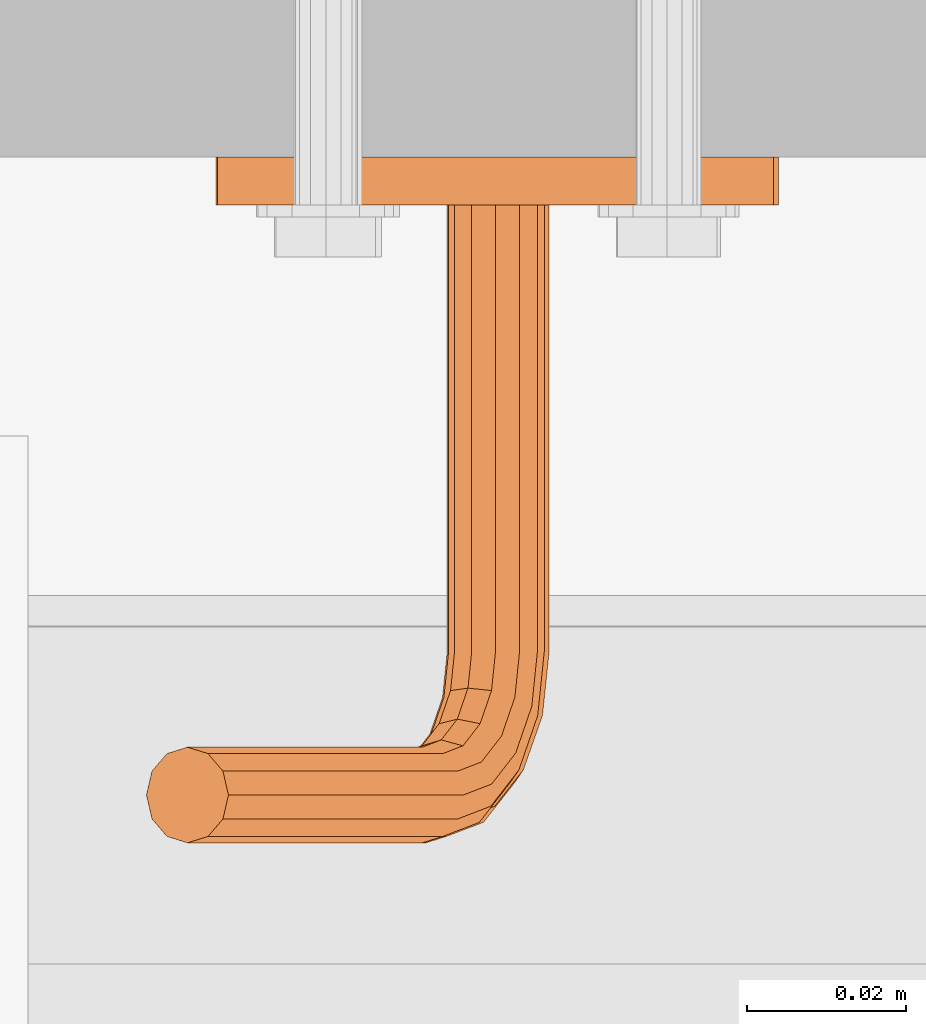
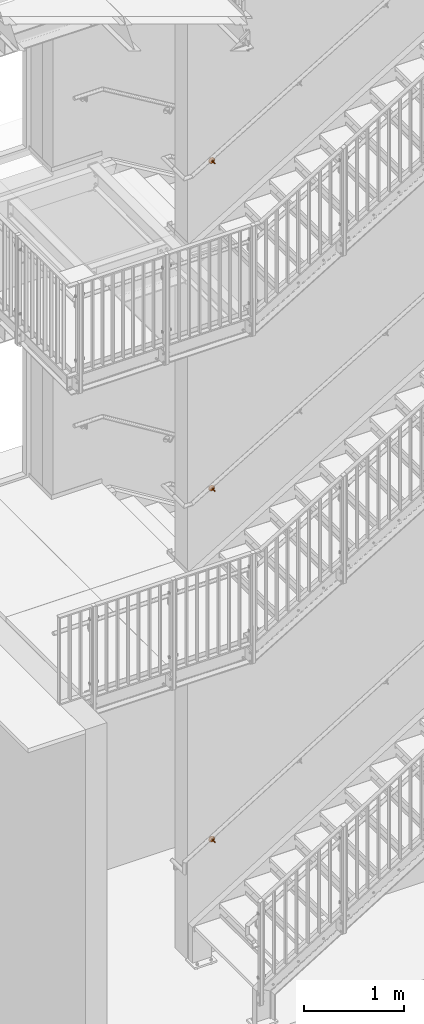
# One storey, part 374 of 410: 3 proxies.
"""IFC2X3 building model written with IfcOpenShell, lengths in millimetres."""

from ifc_helpers import new_model, entity, si_unit, converted_unit, origin_with_axes, place, context, project, spatial, faceted_brep, element, save


model = new_model("IFC2X3")

# Units and contexts
model_context = context("Model", 3, precision=1e-09, world=origin_with_axes())
ifc_project = project(units=[si_unit("LENGTHUNIT", "METRE", prefix="MILLI"), si_unit("AREAUNIT", "SQUARE_METRE"), si_unit("VOLUMEUNIT", "CUBIC_METRE"), converted_unit("PLANEANGLEUNIT", "DEGREE", entity("IfcPlaneAngleMeasure", 0.01745329), si_unit("PLANEANGLEUNIT", "RADIAN"), dimensions=[0, 0, 0, 0, 0, 0, 0])], contexts=[model_context])

# Site, building, storey
site_placement = place(None, origin_with_axes())
site = spatial("IfcSite", under=ifc_project, at=site_placement, Name="mKR Teilneubau & Sanierung BA1 - Ostfildern", CompositionType="ELEMENT")
building_placement = place(site_placement, origin_with_axes())
building = spatial("IfcBuilding", under=site, at=building_placement, Name="Struktur 1", CompositionType="ELEMENT")
storey_placement = place(building_placement, origin_with_axes())
storey = spatial("IfcBuildingStorey", under=building, at=storey_placement, Name="Default Storey", CompositionType="ELEMENT", Elevation=0.0)

# Proxies
proxy_1_placement = place(None, origin_with_axes())
element("IfcBuildingElementProxy", 1, at=proxy_1_placement, inside=storey, ObjectType="-", context=model_context, shape_type="Brep", body=[
    faceted_brep([(-1451.167253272, 16855.0, -3420.123119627), (-1451.167253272, 16849.0, -3420.123119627), (-1450.536690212, 16849.0, -3422.230777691), (-1450.536690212, 16855.0, -3422.230777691), (-1424.721301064, 16849.0, -3371.891880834), (-1436.131583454, 16849.0, -3373.489758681), (-1446.404795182, 16849.0, -3378.705971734), (-1454.427674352, 16849.0, -3386.975262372), (-1459.330817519, 16849.0, -3397.401524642), (-1460.58289304, 16849.0, -3408.854911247), (-1458.048219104, 16849.0, -3420.094270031), (-1452.001466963, 16849.0, -3429.901642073), (-1443.097896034, 16849.0, -3437.214246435), (-1432.302346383, 16849.0, -3441.239648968), (-1420.784683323, 16849.0, -3441.541634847), (-1409.793024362, 16849.0, -3438.087479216), (-1400.518486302, 16849.0, -3431.251493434), (-1393.966109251, 16849.0, -3421.774462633), (-1390.845944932, 16849.0, -3410.68337015), (-1391.496111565, 16849.0, -3399.180107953), (-1395.846153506, 16849.0, -3388.511232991), (-1403.424676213, 16849.0, -3379.832883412), (-1413.410429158, 16849.0, -3374.085493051), (-1408.606524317, 16849.0, -3393.88222881), (-1408.098778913, 16849.0, -3391.741661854), (-1406.588775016, 16849.0, -3390.141749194), (-1404.481116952, 16849.0, -3389.511186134), (-1402.340549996, 16849.0, -3390.018931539), (-1400.740637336, 16849.0, -3391.528935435), (-1400.110074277, 16849.0, -3393.6365935), (-1400.617819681, 16849.0, -3395.777160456), (-1402.127823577, 16849.0, -3397.377073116), (-1404.235481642, 16849.0, -3398.007636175), (-1406.376048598, 16849.0, -3397.499890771), (-1407.975961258, 16849.0, -3395.989886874), (-1450.659507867, 16849.0, -3417.982552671), (-1449.149503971, 16849.0, -3416.382640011), (-1447.041845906, 16849.0, -3415.752076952), (-1444.90127895, 16849.0, -3416.259822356), (-1443.30136629, 16849.0, -3417.769826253), (-1442.670803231, 16849.0, -3419.877484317), (-1443.178548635, 16849.0, -3422.018051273), (-1444.688552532, 16849.0, -3423.617963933), (-1446.796210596, 16849.0, -3424.248526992), (-1448.936777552, 16849.0, -3423.740781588), (-1450.659507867, 16855.0, -3417.982552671), (-1393.966109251, 16855.0, -3421.774462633), (-1400.518486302, 16855.0, -3431.251493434), (-1409.793024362, 16855.0, -3438.087479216), (-1420.784683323, 16855.0, -3441.541634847), (-1432.302346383, 16855.0, -3441.239648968), (-1443.097896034, 16855.0, -3437.214246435), (-1452.001466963, 16855.0, -3429.901642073), (-1458.048219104, 16855.0, -3420.094270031), (-1460.58289304, 16855.0, -3408.854911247), (-1459.330817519, 16855.0, -3397.401524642), (-1454.427674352, 16855.0, -3386.975262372), (-1446.404795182, 16855.0, -3378.705971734), (-1436.131583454, 16855.0, -3373.489758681), (-1424.721301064, 16855.0, -3371.891880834), (-1413.410429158, 16855.0, -3374.085493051), (-1403.424676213, 16855.0, -3379.832883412), (-1395.846153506, 16855.0, -3388.511232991), (-1391.496111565, 16855.0, -3399.180107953), (-1390.845944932, 16855.0, -3410.68337015), (-1448.936777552, 16855.0, -3423.740781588), (-1446.796210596, 16855.0, -3424.248526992), (-1444.688552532, 16855.0, -3423.617963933), (-1443.178548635, 16855.0, -3422.018051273), (-1442.670803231, 16855.0, -3419.877484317), (-1443.30136629, 16855.0, -3417.769826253), (-1444.90127895, 16855.0, -3416.259822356), (-1447.041845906, 16855.0, -3415.752076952), (-1449.149503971, 16855.0, -3416.382640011), (-1406.376048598, 16855.0, -3397.499890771), (-1404.235481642, 16855.0, -3398.007636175), (-1402.127823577, 16855.0, -3397.377073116), (-1400.617819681, 16855.0, -3395.777160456), (-1400.110074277, 16855.0, -3393.6365935), (-1400.740637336, 16855.0, -3391.528935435), (-1402.340549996, 16855.0, -3390.018931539), (-1404.481116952, 16855.0, -3389.511186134), (-1406.588775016, 16855.0, -3390.141749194), (-1408.098778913, 16855.0, -3391.741661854), (-1408.606524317, 16855.0, -3393.88222881), (-1407.975961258, 16855.0, -3395.989886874)], [[[0, 1, 2, 3]], [[4, 5, 6, 7, 8, 9, 10, 11, 12, 13, 14, 15, 16, 17, 18, 19, 20, 21, 22], [23, 24, 25, 26, 27, 28, 29, 30, 31, 32, 33, 34], [2, 1, 35, 36, 37, 38, 39, 40, 41, 42, 43, 44]], [[1, 0, 45, 35]], [[46, 47, 48, 49, 50, 51, 52, 53, 54, 55, 56, 57, 58, 59, 60, 61, 62, 63, 64], [0, 3, 65, 66, 67, 68, 69, 70, 71, 72, 73, 45], [74, 75, 76, 77, 78, 79, 80, 81, 82, 83, 84, 85]], [[3, 2, 44, 65]], [[10, 53, 52, 11]], [[65, 44, 43, 66]], [[35, 45, 73, 36]], [[53, 10, 9, 54]], [[66, 43, 42, 67]], [[11, 52, 51, 12]], [[36, 73, 72, 37]], [[8, 55, 54, 9]], [[67, 42, 41, 68]], [[55, 8, 7, 56]], [[50, 13, 12, 51]], [[37, 72, 71, 38]], [[13, 50, 49, 14]], [[68, 41, 40, 69]], [[38, 71, 70, 39]], [[56, 7, 6, 57]], [[69, 40, 39, 70]], [[14, 49, 48, 15]], [[57, 6, 5, 58]], [[34, 85, 84, 23]], [[15, 48, 47, 16]], [[85, 34, 33, 74]], [[23, 84, 83, 24]], [[58, 5, 4, 59]], [[16, 47, 46, 17]], [[74, 33, 32, 75]], [[24, 83, 82, 25]], [[59, 4, 22, 60]], [[17, 46, 64, 18]], [[75, 32, 31, 76]], [[25, 82, 81, 26]], [[60, 22, 21, 61]], [[18, 64, 63, 19]], [[76, 31, 30, 77]], [[20, 62, 61, 21]], [[26, 81, 80, 27]], [[62, 20, 19, 63]], [[77, 30, 29, 78]], [[27, 80, 79, 28]], [[78, 29, 28, 79]]]),
    faceted_brep([(-1420.5313763, 16793.0, -3403.730949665), (-1420.5313763, 16849.0, -3403.730949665), (-1422.790076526, 16849.0, -3401.599179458), (-1422.790076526, 16793.0, -3401.599179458), (-1430.662343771, 16772.0, -3388.830960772), (-1460.576959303, 16772.0, -3340.311729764), (-1462.446356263, 16769.803847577, -3341.464309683), (-1432.531740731, 16769.803847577, -3389.983540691), (-1429.978096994, 16775.0, -3388.409087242), (-1459.892712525, 16775.0, -3339.889856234), (-1427.873046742, 16771.569549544, -3397.539587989), (-1426.444723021, 16773.598529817, -3395.671620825), (-1425.465274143, 16849.0, -3412.87735071), (-1428.487251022, 16849.0, -3412.160533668), (-1430.745951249, 16849.0, -3410.028763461), (-1431.63615792, 16849.0, -3407.053246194), (-1430.919340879, 16849.0, -3404.031269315), (-1428.787570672, 16849.0, -3401.772569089), (-1425.812053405, 16849.0, -3400.882362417), (-1419.641169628, 16849.0, -3406.706466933), (-1420.357986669, 16849.0, -3409.728443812), (-1422.489756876, 16849.0, -3411.987144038), (-1419.641169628, 16793.0, -3406.706466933), (-1423.389317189, 16787.259748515, -3400.627256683), (-1421.250465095, 16786.111698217, -3402.564642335), (-1467.553643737, 16780.196152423, -3344.613216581), (-1469.423040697, 16778.0, -3345.7657965), (-1470.107287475, 16775.0, -3346.18767003), (-1469.423040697, 16772.0, -3345.7657965), (-1467.553643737, 16769.803847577, -3344.613216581), (-1465.0, 16769.0, -3343.038763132), (-1460.576959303, 16778.0, -3340.311729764), (-1462.446356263, 16780.196152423, -3341.464309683), (-1465.0, 16781.0, -3343.038763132), (-1426.362993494, 16776.370168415, -3394.272510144), (-1422.869196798, 16778.150757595, -3401.470852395), (-1423.298256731, 16780.272077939, -3399.243280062), (-1425.812053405, 16793.0, -3400.882362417), (-1420.480106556, 16784.96364792, -3405.345775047), (-1435.085384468, 16769.0, -3391.55799414), (-1430.662343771, 16778.0, -3388.830960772), (-1430.265246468, 16770.82689122, -3399.375891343), (-1423.923596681, 16776.597843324, -3403.945295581), (-1425.095810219, 16782.393398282, -3397.859454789), (-1426.323559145, 16788.100179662, -3400.052739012), (-1420.357986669, 16793.0, -3409.728443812), (-1427.649757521, 16779.141807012, -3393.717146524), (-1428.787570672, 16793.0, -3401.772569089), (-1421.284658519, 16784.123216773, -3408.225452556), (-1437.639028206, 16769.803847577, -3393.132447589), (-1432.531740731, 16780.196152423, -3389.983540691), (-1432.980334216, 16771.569549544, -3400.688494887), (-1426.178930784, 16776.029437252, -3406.003584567), (-1427.780204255, 16783.946312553, -3397.69017144), (-1429.266963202, 16788.407798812, -3400.995030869), (-1422.489756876, 16793.0, -3411.987144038), (-1429.960227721, 16781.170787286, -3394.154339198), (-1439.508425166, 16772.0, -3394.285027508), (-1430.919340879, 16793.0, -3404.031269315), (-1423.448541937, 16783.815597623, -3410.432067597), (-1435.085384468, 16781.0, -3391.55799414), (-1435.290804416, 16773.598529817, -3401.125687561), (-1429.030884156, 16776.597843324, -3407.09420248), (-1430.632157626, 16784.514718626, -3398.780789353), (-1431.43084662, 16788.100179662, -3403.20164591), (-1425.465274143, 16793.0, -3412.87735071), (-1432.675315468, 16781.91344561, -3395.466942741), (-1440.192671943, 16775.0, -3394.706901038), (-1431.63615792, 16793.0, -3407.053246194), (-1426.391945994, 16784.123216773, -3411.374359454), (-1437.639028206, 16780.196152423, -3393.132447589), (-1439.508425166, 16778.0, -3394.285027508), (-1436.577568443, 16776.370168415, -3400.57032394), (-1431.715278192, 16778.150757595, -3406.924919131), (-1432.88749173, 16783.946312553, -3400.839078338), (-1432.235398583, 16787.259748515, -3406.081323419), (-1430.745951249, 16793.0, -3410.028763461), (-1428.487251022, 16793.0, -3412.160533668), (-1435.067515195, 16781.170787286, -3397.303246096), (-1429.32618795, 16784.96364792, -3410.799841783), (-1436.495838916, 16779.141807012, -3399.17121326), (-1433.51283168, 16780.272077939, -3405.541093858), (-1431.465040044, 16786.111698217, -3408.862456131), (-1433.941891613, 16782.393398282, -3403.313521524)], [[[0, 1, 2, 3]], [[4, 5, 6, 7]], [[5, 4, 8, 9]], [[4, 7, 10, 11]], [[12, 13, 14, 15, 16, 17, 18, 2, 1, 19, 20, 21]], [[1, 0, 22, 19]], [[0, 3, 23, 24]], [[25, 26, 27, 28, 29, 30, 6, 5, 9, 31, 32, 33]], [[11, 34, 8, 4]], [[35, 36, 34, 11]], [[3, 2, 18, 37]], [[24, 38, 22, 0]], [[36, 35, 38, 24]], [[7, 6, 30, 39]], [[9, 8, 40, 31]], [[7, 39, 41, 10]], [[11, 10, 42, 35]], [[24, 23, 43, 36]], [[3, 37, 44, 23]], [[19, 22, 45, 20]], [[36, 43, 46, 34]], [[34, 46, 40, 8]], [[37, 18, 17, 47]], [[38, 48, 45, 22]], [[35, 42, 48, 38]], [[39, 30, 29, 49]], [[31, 40, 50, 32]], [[39, 49, 51, 41]], [[10, 41, 52, 42]], [[23, 44, 53, 43]], [[37, 47, 54, 44]], [[20, 45, 55, 21]], [[43, 53, 56, 46]], [[46, 56, 50, 40]], [[49, 29, 28, 57]], [[47, 17, 16, 58]], [[48, 59, 55, 45]], [[42, 52, 59, 48]], [[32, 50, 60, 33]], [[49, 57, 61, 51]], [[41, 51, 62, 52]], [[44, 54, 63, 53]], [[47, 58, 64, 54]], [[21, 55, 65, 12]], [[56, 66, 60, 50]], [[53, 63, 66, 56]], [[57, 28, 27, 67]], [[58, 16, 15, 68]], [[59, 69, 65, 55]], [[52, 62, 69, 59]], [[33, 60, 70, 25]], [[26, 71, 67, 27]], [[25, 70, 71, 26]], [[57, 67, 72, 61]], [[51, 61, 73, 62]], [[54, 64, 74, 63]], [[58, 68, 75, 64]], [[14, 76, 68, 15]], [[13, 77, 76, 14]], [[12, 65, 77, 13]], [[66, 78, 70, 60]], [[63, 74, 78, 66]], [[69, 79, 77, 65]], [[62, 73, 79, 69]], [[67, 71, 80, 72]], [[71, 70, 78, 80]], [[61, 72, 81, 73]], [[68, 76, 82, 75]], [[64, 75, 83, 74]], [[76, 77, 79, 82]], [[74, 83, 80, 78]], [[73, 81, 82, 79]], [[72, 80, 83, 81]], [[75, 82, 81, 83]]]),
])
proxy_2_placement = place(None, origin_with_axes())
element("IfcBuildingElementProxy", 2, at=proxy_2_placement, inside=storey, ObjectType="-", context=model_context, shape_type="Brep", body=[
    faceted_brep([(-1452.116573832, 16855.0, 867.239413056), (-1452.116573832, 16849.0, 867.239413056), (-1451.511986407, 16849.0, 865.124157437), (-1451.511986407, 16855.0, 865.124157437), (-1425.079293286, 16849.0, 915.141670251), (-1436.508368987, 16849.0, 913.684279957), (-1446.844971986, 16849.0, 908.594840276), (-1454.96897096, 16849.0, 900.424870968), (-1460.000004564, 16849.0, 890.059714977), (-1461.392882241, 16849.0, 878.622597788), (-1458.996664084, 16849.0, 867.352908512), (-1453.071017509, 16849.0, 857.47189285), (-1444.25807827, 16849.0, 850.050312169), (-1433.51286508, 16849.0, 845.892409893), (-1421.999788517, 16849.0, 845.448759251), (-1410.966469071, 16849.0, 848.767436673), (-1401.608538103, 16849.0, 855.488811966), (-1394.940072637, 16849.0, 864.884519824), (-1391.683704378, 16849.0, 875.936389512), (-1392.192311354, 16849.0, 887.446779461), (-1396.410778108, 16849.0, 898.168360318), (-1403.881968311, 16849.0, 906.939282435), (-1413.796262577, 16849.0, 912.809080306), (-1451.582534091, 16849.0, 869.37357187), (-1450.052962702, 16849.0, 870.954787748), (-1447.937707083, 16849.0, 871.559375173), (-1445.803548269, 16849.0, 871.025335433), (-1444.22233239, 16849.0, 869.495764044), (-1443.617744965, 16849.0, 867.380508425), (-1444.151784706, 16849.0, 865.24634961), (-1445.681356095, 16849.0, 863.665133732), (-1447.796611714, 16849.0, 863.060546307), (-1449.930770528, 16849.0, 863.594586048), (-1409.23625609, 16849.0, 892.954746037), (-1408.702216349, 16849.0, 895.088904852), (-1407.17264496, 16849.0, 896.67012073), (-1405.057389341, 16849.0, 897.274708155), (-1402.923230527, 16849.0, 896.740668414), (-1401.342014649, 16849.0, 895.211097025), (-1400.737427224, 16849.0, 893.095841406), (-1401.271466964, 16849.0, 890.961682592), (-1402.801038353, 16849.0, 889.380466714), (-1404.916293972, 16849.0, 888.775879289), (-1407.050452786, 16849.0, 889.309919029), (-1408.631668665, 16849.0, 890.839490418), (-1451.582534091, 16855.0, 869.37357187), (-1394.940072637, 16855.0, 864.884519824), (-1401.608538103, 16855.0, 855.488811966), (-1410.966469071, 16855.0, 848.767436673), (-1421.999788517, 16855.0, 845.448759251), (-1433.51286508, 16855.0, 845.892409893), (-1444.25807827, 16855.0, 850.050312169), (-1453.071017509, 16855.0, 857.47189285), (-1458.996664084, 16855.0, 867.352908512), (-1461.392882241, 16855.0, 878.622597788), (-1460.000004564, 16855.0, 890.059714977), (-1454.96897096, 16855.0, 900.424870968), (-1446.844971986, 16855.0, 908.594840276), (-1436.508368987, 16855.0, 913.684279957), (-1425.079293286, 16855.0, 915.141670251), (-1413.796262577, 16855.0, 912.809080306), (-1403.881968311, 16855.0, 906.939282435), (-1396.410778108, 16855.0, 898.168360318), (-1392.192311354, 16855.0, 887.446779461), (-1391.683704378, 16855.0, 875.936389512), (-1449.930770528, 16855.0, 863.594586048), (-1447.796611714, 16855.0, 863.060546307), (-1445.681356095, 16855.0, 863.665133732), (-1444.151784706, 16855.0, 865.24634961), (-1443.617744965, 16855.0, 867.380508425), (-1444.22233239, 16855.0, 869.495764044), (-1445.803548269, 16855.0, 871.025335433), (-1447.937707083, 16855.0, 871.559375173), (-1450.052962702, 16855.0, 870.954787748), (-1407.050452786, 16855.0, 889.309919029), (-1404.916293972, 16855.0, 888.775879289), (-1402.801038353, 16855.0, 889.380466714), (-1401.271466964, 16855.0, 890.961682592), (-1400.737427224, 16855.0, 893.095841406), (-1401.342014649, 16855.0, 895.211097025), (-1402.923230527, 16855.0, 896.740668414), (-1405.057389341, 16855.0, 897.274708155), (-1407.17264496, 16855.0, 896.67012073), (-1408.702216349, 16855.0, 895.088904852), (-1409.23625609, 16855.0, 892.954746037), (-1408.631668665, 16855.0, 890.839490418)], [[[0, 1, 2, 3]], [[4, 5, 6, 7, 8, 9, 10, 11, 12, 13, 14, 15, 16, 17, 18, 19, 20, 21, 22], [2, 1, 23, 24, 25, 26, 27, 28, 29, 30, 31, 32], [33, 34, 35, 36, 37, 38, 39, 40, 41, 42, 43, 44]], [[1, 0, 45, 23]], [[46, 47, 48, 49, 50, 51, 52, 53, 54, 55, 56, 57, 58, 59, 60, 61, 62, 63, 64], [0, 3, 65, 66, 67, 68, 69, 70, 71, 72, 73, 45], [74, 75, 76, 77, 78, 79, 80, 81, 82, 83, 84, 85]], [[3, 2, 32, 65]], [[10, 53, 52, 11]], [[65, 32, 31, 66]], [[23, 45, 73, 24]], [[53, 10, 9, 54]], [[66, 31, 30, 67]], [[11, 52, 51, 12]], [[24, 73, 72, 25]], [[8, 55, 54, 9]], [[67, 30, 29, 68]], [[55, 8, 7, 56]], [[50, 13, 12, 51]], [[25, 72, 71, 26]], [[13, 50, 49, 14]], [[68, 29, 28, 69]], [[26, 71, 70, 27]], [[56, 7, 6, 57]], [[69, 28, 27, 70]], [[14, 49, 48, 15]], [[57, 6, 5, 58]], [[44, 85, 84, 33]], [[15, 48, 47, 16]], [[85, 44, 43, 74]], [[33, 84, 83, 34]], [[58, 5, 4, 59]], [[16, 47, 46, 17]], [[74, 43, 42, 75]], [[34, 83, 82, 35]], [[59, 4, 22, 60]], [[17, 46, 64, 18]], [[75, 42, 41, 76]], [[35, 82, 81, 36]], [[60, 22, 21, 61]], [[18, 64, 63, 19]], [[76, 41, 40, 77]], [[20, 62, 61, 21]], [[36, 81, 80, 37]], [[62, 20, 19, 63]], [[77, 40, 39, 78]], [[37, 80, 79, 38]], [[78, 39, 38, 79]]]),
    faceted_brep([(-1421.281362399, 16793.0, 883.253467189), (-1421.281362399, 16849.0, 883.253467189), (-1423.513667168, 16849.0, 885.412862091), (-1423.513667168, 16793.0, 885.412862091), (-1431.228267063, 16772.0, 898.276957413), (-1460.543746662, 16772.0, 947.160519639), (-1462.427180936, 16769.803847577, 946.031023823), (-1433.111701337, 16769.803847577, 897.147461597), (-1430.538882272, 16775.0, 898.690381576), (-1459.854361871, 16775.0, 947.573943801), (-1428.546312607, 16771.569549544, 889.534675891), (-1427.095117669, 16773.598529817, 891.3849308), (-1426.327403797, 16849.0, 874.168453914), (-1429.340333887, 16849.0, 874.922392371), (-1431.572638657, 16849.0, 877.081787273), (-1432.426173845, 16849.0, 880.0680305), (-1431.672235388, 16849.0, 883.08096059), (-1429.512840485, 16849.0, 885.31326536), (-1426.526597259, 16849.0, 886.166800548), (-1420.42782721, 16849.0, 880.267223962), (-1421.181765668, 16849.0, 877.254293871), (-1423.34116057, 16849.0, 875.021989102), (-1420.42782721, 16793.0, 880.267223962), (-1424.100906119, 16787.259748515, 886.392083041), (-1421.986049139, 16786.111698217, 884.428532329), (-1467.572819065, 16780.196152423, 942.945183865), (-1469.456253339, 16778.0, 941.815688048), (-1470.145638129, 16775.0, 941.402263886), (-1469.456253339, 16772.0, 941.815688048), (-1467.572819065, 16769.803847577, 942.945183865), (-1465.0, 16769.0, 944.488103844), (-1460.543746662, 16778.0, 947.160519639), (-1462.427180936, 16780.196152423, 946.031023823), (-1465.0, 16781.0, 944.488103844), (-1426.996182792, 16776.370168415, 892.782930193), (-1423.591202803, 16778.150757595, 885.542152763), (-1423.992827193, 16780.272077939, 887.774834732), (-1426.526597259, 16793.0, 886.166800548), (-1421.249961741, 16784.96364792, 881.638133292), (-1435.684520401, 16769.0, 895.604541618), (-1431.228267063, 16778.0, 898.276957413), (-1430.960921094, 16770.82689122, 887.727939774), (-1424.675962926, 16776.597843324, 883.080867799), (-1425.773221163, 16782.393398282, 889.180668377), (-1427.027858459, 16788.100179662, 887.002653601), (-1421.181765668, 16793.0, 877.254293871), (-1428.276017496, 16779.141807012, 893.354081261), (-1429.512840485, 16793.0, 885.31326536), (-1422.089877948, 16784.123216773, 878.768571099), (-1438.257339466, 16769.803847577, 894.061621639), (-1433.111701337, 16780.196152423, 897.147461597), (-1433.691950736, 16771.569549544, 886.448835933), (-1426.956446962, 16776.029437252, 881.05047916), (-1428.455329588, 16783.946312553, 889.382961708), (-1429.982631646, 16788.407798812, 886.09664212), (-1423.34116057, 16793.0, 875.021989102), (-1430.591691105, 16781.170787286, 892.945344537), (-1440.140773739, 16772.0, 892.932125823), (-1431.672235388, 16793.0, 883.08096059), (-1424.280742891, 16783.815597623, 876.588742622), (-1435.684520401, 16781.0, 895.604541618), (-1436.007624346, 16773.598529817, 886.040099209), (-1429.821601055, 16776.597843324, 879.995027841), (-1431.320483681, 16784.514718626, 888.327510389), (-1432.173496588, 16788.100179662, 883.916813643), (-1426.327403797, 16793.0, 874.168453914), (-1433.322720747, 16781.91344561, 891.666240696), (-1440.83015853, 16775.0, 892.51870166), (-1432.426173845, 16793.0, 880.0680305), (-1427.235516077, 16784.123216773, 875.682731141), (-1438.257339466, 16780.196152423, 894.061621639), (-1440.140773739, 16778.0, 892.932125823), (-1437.28745905, 16776.370168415, 886.611250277), (-1432.50370948, 16778.150757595, 880.197321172), (-1433.600967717, 16783.946312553, 886.29712175), (-1433.013412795, 16787.259748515, 881.04725145), (-1431.572638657, 16793.0, 877.081787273), (-1429.340333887, 16793.0, 874.922392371), (-1435.737329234, 16781.170787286, 889.859504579), (-1430.162468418, 16784.96364792, 876.293301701), (-1437.188524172, 16779.141807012, 888.00924967), (-1434.284103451, 16780.272077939, 881.603154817), (-1432.277325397, 16786.111698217, 878.256852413), (-1434.68572784, 16782.393398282, 883.835836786)], [[[0, 1, 2, 3]], [[4, 5, 6, 7]], [[5, 4, 8, 9]], [[4, 7, 10, 11]], [[12, 13, 14, 15, 16, 17, 18, 2, 1, 19, 20, 21]], [[1, 0, 22, 19]], [[0, 3, 23, 24]], [[25, 26, 27, 28, 29, 30, 6, 5, 9, 31, 32, 33]], [[11, 34, 8, 4]], [[35, 36, 34, 11]], [[3, 2, 18, 37]], [[24, 38, 22, 0]], [[36, 35, 38, 24]], [[7, 6, 30, 39]], [[9, 8, 40, 31]], [[7, 39, 41, 10]], [[11, 10, 42, 35]], [[24, 23, 43, 36]], [[3, 37, 44, 23]], [[19, 22, 45, 20]], [[36, 43, 46, 34]], [[34, 46, 40, 8]], [[37, 18, 17, 47]], [[38, 48, 45, 22]], [[35, 42, 48, 38]], [[39, 30, 29, 49]], [[31, 40, 50, 32]], [[39, 49, 51, 41]], [[10, 41, 52, 42]], [[23, 44, 53, 43]], [[37, 47, 54, 44]], [[20, 45, 55, 21]], [[43, 53, 56, 46]], [[46, 56, 50, 40]], [[49, 29, 28, 57]], [[47, 17, 16, 58]], [[48, 59, 55, 45]], [[42, 52, 59, 48]], [[32, 50, 60, 33]], [[49, 57, 61, 51]], [[41, 51, 62, 52]], [[44, 54, 63, 53]], [[47, 58, 64, 54]], [[21, 55, 65, 12]], [[56, 66, 60, 50]], [[53, 63, 66, 56]], [[57, 28, 27, 67]], [[58, 16, 15, 68]], [[59, 69, 65, 55]], [[52, 62, 69, 59]], [[33, 60, 70, 25]], [[26, 71, 67, 27]], [[25, 70, 71, 26]], [[57, 67, 72, 61]], [[51, 61, 73, 62]], [[54, 64, 74, 63]], [[58, 68, 75, 64]], [[14, 76, 68, 15]], [[13, 77, 76, 14]], [[12, 65, 77, 13]], [[66, 78, 70, 60]], [[63, 74, 78, 66]], [[69, 79, 77, 65]], [[62, 73, 79, 69]], [[67, 71, 80, 72]], [[71, 70, 78, 80]], [[61, 72, 81, 73]], [[68, 76, 82, 75]], [[64, 75, 83, 74]], [[76, 77, 79, 82]], [[74, 83, 80, 78]], [[73, 81, 82, 79]], [[72, 80, 83, 81]], [[75, 82, 81, 83]]]),
])
proxy_3_placement = place(None, origin_with_axes())
element("IfcBuildingElementProxy", 3, at=proxy_3_placement, inside=storey, ObjectType="-", context=model_context, shape_type="Brep", body=[
    faceted_brep([(-1451.904023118, 16855.0, 4868.092791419), (-1451.904023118, 16849.0, 4868.092791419), (-1451.293616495, 16849.0, 4865.979207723), (-1451.293616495, 16855.0, 4865.979207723), (-1424.998678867, 16849.0, 4916.069277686), (-1436.423700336, 16849.0, 4914.580438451), (-1446.746257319, 16849.0, 4909.462570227), (-1454.847740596, 16849.0, 4901.270273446), (-1459.850228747, 16849.0, 4890.891310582), (-1461.211624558, 16849.0, 4879.450403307), (-1458.78439967, 16849.0, 4868.187351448), (-1452.831581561, 16849.0, 4858.322681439), (-1443.998250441, 16849.0, 4850.92538334), (-1433.2416348, 16849.0, 4846.797069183), (-1421.727380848, 16849.0, 4846.385105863), (-1410.703236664, 16849.0, 4849.734135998), (-1401.363839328, 16849.0, 4856.481240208), (-1394.721257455, 16849.0, 4865.895265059), (-1391.495317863, 16849.0, 4876.956054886), (-1392.035601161, 16849.0, 4888.465001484), (-1396.283559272, 16849.0, 4899.174931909), (-1403.778860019, 16849.0, 4907.92525902), (-1413.709271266, 16849.0, 4913.767749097), (-1409.094640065, 16849.0, 4893.926039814), (-1408.566475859, 16849.0, 4896.061660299), (-1407.041261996, 16849.0, 4897.64707979), (-1404.927678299, 16849.0, 4898.257486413), (-1402.792057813, 16849.0, 4897.729322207), (-1401.206638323, 16849.0, 4896.204108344), (-1400.5962317, 16849.0, 4894.090524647), (-1401.124395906, 16849.0, 4891.954904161), (-1402.649609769, 16849.0, 4890.369484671), (-1404.763193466, 16849.0, 4889.759078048), (-1406.898813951, 16849.0, 4890.287242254), (-1408.484233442, 16849.0, 4891.812456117), (-1451.375858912, 16849.0, 4870.228411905), (-1449.850645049, 16849.0, 4871.813831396), (-1447.737061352, 16849.0, 4872.424238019), (-1445.601440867, 16849.0, 4871.896073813), (-1444.016021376, 16849.0, 4870.37085995), (-1443.405614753, 16849.0, 4868.257276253), (-1443.933778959, 16849.0, 4866.121655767), (-1445.458992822, 16849.0, 4864.536236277), (-1447.572576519, 16849.0, 4863.925829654), (-1449.708197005, 16849.0, 4864.45399386), (-1451.375858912, 16855.0, 4870.228411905), (-1394.721257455, 16855.0, 4865.895265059), (-1401.363839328, 16855.0, 4856.481240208), (-1410.703236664, 16855.0, 4849.734135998), (-1421.727380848, 16855.0, 4846.385105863), (-1433.2416348, 16855.0, 4846.797069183), (-1443.998250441, 16855.0, 4850.92538334), (-1452.831581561, 16855.0, 4858.322681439), (-1458.78439967, 16855.0, 4868.187351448), (-1461.211624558, 16855.0, 4879.450403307), (-1459.850228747, 16855.0, 4890.891310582), (-1454.847740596, 16855.0, 4901.270273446), (-1446.746257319, 16855.0, 4909.462570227), (-1436.423700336, 16855.0, 4914.580438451), (-1424.998678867, 16855.0, 4916.069277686), (-1413.709271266, 16855.0, 4913.767749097), (-1403.778860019, 16855.0, 4907.92525902), (-1396.283559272, 16855.0, 4899.174931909), (-1392.035601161, 16855.0, 4888.465001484), (-1391.495317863, 16855.0, 4876.956054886), (-1449.708197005, 16855.0, 4864.45399386), (-1447.572576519, 16855.0, 4863.925829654), (-1445.458992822, 16855.0, 4864.536236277), (-1443.933778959, 16855.0, 4866.121655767), (-1443.405614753, 16855.0, 4868.257276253), (-1444.016021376, 16855.0, 4870.37085995), (-1445.601440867, 16855.0, 4871.896073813), (-1447.737061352, 16855.0, 4872.424238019), (-1449.850645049, 16855.0, 4871.813831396), (-1406.898813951, 16855.0, 4890.287242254), (-1404.763193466, 16855.0, 4889.759078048), (-1402.649609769, 16855.0, 4890.369484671), (-1401.124395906, 16855.0, 4891.954904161), (-1400.5962317, 16855.0, 4894.090524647), (-1401.206638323, 16855.0, 4896.204108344), (-1402.792057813, 16855.0, 4897.729322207), (-1404.927678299, 16855.0, 4898.257486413), (-1407.041261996, 16855.0, 4897.64707979), (-1408.566475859, 16855.0, 4896.061660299), (-1409.094640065, 16855.0, 4893.926039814), (-1408.484233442, 16855.0, 4891.812456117)], [[[0, 1, 2, 3]], [[4, 5, 6, 7, 8, 9, 10, 11, 12, 13, 14, 15, 16, 17, 18, 19, 20, 21, 22], [23, 24, 25, 26, 27, 28, 29, 30, 31, 32, 33, 34], [2, 1, 35, 36, 37, 38, 39, 40, 41, 42, 43, 44]], [[1, 0, 45, 35]], [[46, 47, 48, 49, 50, 51, 52, 53, 54, 55, 56, 57, 58, 59, 60, 61, 62, 63, 64], [0, 3, 65, 66, 67, 68, 69, 70, 71, 72, 73, 45], [74, 75, 76, 77, 78, 79, 80, 81, 82, 83, 84, 85]], [[3, 2, 44, 65]], [[10, 53, 52, 11]], [[65, 44, 43, 66]], [[35, 45, 73, 36]], [[53, 10, 9, 54]], [[66, 43, 42, 67]], [[11, 52, 51, 12]], [[36, 73, 72, 37]], [[8, 55, 54, 9]], [[67, 42, 41, 68]], [[55, 8, 7, 56]], [[50, 13, 12, 51]], [[37, 72, 71, 38]], [[13, 50, 49, 14]], [[68, 41, 40, 69]], [[38, 71, 70, 39]], [[56, 7, 6, 57]], [[69, 40, 39, 70]], [[14, 49, 48, 15]], [[57, 6, 5, 58]], [[34, 85, 84, 23]], [[15, 48, 47, 16]], [[85, 34, 33, 74]], [[23, 84, 83, 24]], [[58, 5, 4, 59]], [[16, 47, 46, 17]], [[74, 33, 32, 75]], [[24, 83, 82, 25]], [[59, 4, 22, 60]], [[17, 46, 64, 18]], [[75, 32, 31, 76]], [[25, 82, 81, 26]], [[60, 22, 21, 61]], [[18, 64, 63, 19]], [[76, 31, 30, 77]], [[20, 62, 61, 21]], [[26, 81, 80, 27]], [[62, 20, 19, 63]], [[77, 30, 29, 78]], [[27, 80, 79, 28]], [[78, 29, 28, 79]]]),
    faceted_brep([(-1421.113001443, 16793.0, 4884.191647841), (-1421.113001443, 16849.0, 4884.191647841), (-1423.351240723, 16849.0, 4886.344890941), (-1423.351240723, 16793.0, 4886.344890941), (-1431.101215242, 16772.0, 4899.187705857), (-1460.551118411, 16772.0, 4947.990402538), (-1462.431437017, 16769.803847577, 4946.855727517), (-1432.981533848, 16769.803847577, 4898.053030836), (-1430.412970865, 16775.0, 4899.60302574), (-1459.862874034, 16775.0, 4948.405722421), (-1428.395210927, 16771.569549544, 4890.452838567), (-1426.949113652, 16773.598529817, 4892.307080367), (-1426.134020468, 16849.0, 4875.09278154), (-1429.149014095, 16849.0, 4875.838425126), (-1431.387253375, 16849.0, 4877.991668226), (-1432.249003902, 16849.0, 4880.975551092), (-1431.503360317, 16849.0, 4883.990544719), (-1429.350117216, 16849.0, 4886.228784), (-1426.36623435, 16849.0, 4887.090534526), (-1420.251250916, 16849.0, 4881.207764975), (-1420.996894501, 16849.0, 4878.192771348), (-1423.150137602, 16849.0, 4875.954532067), (-1420.251250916, 16793.0, 4881.207764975), (-1423.941172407, 16787.259748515, 4887.322492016), (-1421.820919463, 16786.111698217, 4885.364769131), (-1467.568562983, 16780.196152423, 4943.75573771), (-1469.44888159, 16778.0, 4942.621062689), (-1470.137125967, 16775.0, 4942.205742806), (-1469.44888159, 16772.0, 4942.621062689), (-1467.568562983, 16769.803847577, 4943.75573771), (-1465.0, 16769.0, 4945.305732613), (-1460.551118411, 16778.0, 4947.990402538), (-1462.431437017, 16780.196152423, 4946.855727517), (-1465.0, 16781.0, 4945.305732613), (-1426.854026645, 16776.370168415, 4893.705346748), (-1423.429131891, 16778.150757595, 4886.473967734), (-1423.836899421, 16780.272077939, 4888.70553592), (-1426.36623435, 16793.0, 4887.090534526), (-1421.077155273, 16784.96364792, 4882.57640648), (-1435.550096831, 16769.0, 4896.503035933), (-1431.101215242, 16778.0, 4899.187705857), (-1430.804837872, 16770.82689122, 4888.639463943), (-1424.507114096, 16776.597843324, 4884.009706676), (-1425.621155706, 16782.393398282, 4890.10646434), (-1426.869794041, 16788.100179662, 4887.92500487), (-1420.996894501, 16793.0, 4878.192771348), (-1428.135428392, 16779.141807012, 4894.272973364), (-1429.350117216, 16793.0, 4886.228784), (-1421.909170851, 16784.123216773, 4879.704543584), (-1438.118659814, 16769.803847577, 4894.953041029), (-1432.981533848, 16780.196152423, 4898.053030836), (-1433.532336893, 16771.569549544, 4887.35284876), (-1426.782001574, 16776.029437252, 4881.973049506), (-1428.303810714, 16783.946312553, 4890.301375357), (-1429.822062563, 16788.407798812, 4887.01086486), (-1423.150137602, 16793.0, 4875.954532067), (-1430.44996833, 16781.170787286, 4893.857865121), (-1439.99897842, 16772.0, 4893.818366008), (-1431.503360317, 16793.0, 4883.990544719), (-1424.094028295, 16783.815597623, 4877.518693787), (-1435.550096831, 16781.0, 4896.503035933), (-1435.846876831, 16773.598529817, 4886.937740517), (-1429.644240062, 16776.597843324, 4880.909716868), (-1431.166049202, 16784.514718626, 4889.238042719), (-1432.006920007, 16788.100179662, 4884.825015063), (-1426.134020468, 16793.0, 4875.09278154), (-1433.177467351, 16781.91344561, 4892.571249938), (-1440.687222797, 16775.0, 4893.403046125), (-1432.249003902, 16793.0, 4880.975551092), (-1427.046296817, 16784.123216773, 4876.604553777), (-1438.118659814, 16780.196152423, 4894.953041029), (-1439.99897842, 16778.0, 4893.818366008), (-1437.128278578, 16776.370168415, 4887.505367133), (-1432.32689507, 16778.150757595, 4881.104627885), (-1433.44093668, 16783.946312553, 4887.201385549), (-1432.838935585, 16787.259748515, 4881.953152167), (-1431.387253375, 16793.0, 4877.991668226), (-1429.149014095, 16793.0, 4875.838425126), (-1435.587094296, 16781.170787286, 4890.757875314), (-1429.974918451, 16784.96364792, 4877.207066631), (-1437.033191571, 16779.141807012, 4888.903633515), (-1434.111151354, 16780.272077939, 4882.505556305), (-1432.095171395, 16786.111698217, 4879.164789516), (-1434.518918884, 16782.393398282, 4884.737124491)], [[[0, 1, 2, 3]], [[4, 5, 6, 7]], [[5, 4, 8, 9]], [[4, 7, 10, 11]], [[12, 13, 14, 15, 16, 17, 18, 2, 1, 19, 20, 21]], [[1, 0, 22, 19]], [[0, 3, 23, 24]], [[25, 26, 27, 28, 29, 30, 6, 5, 9, 31, 32, 33]], [[11, 34, 8, 4]], [[35, 36, 34, 11]], [[3, 2, 18, 37]], [[24, 38, 22, 0]], [[36, 35, 38, 24]], [[7, 6, 30, 39]], [[9, 8, 40, 31]], [[7, 39, 41, 10]], [[11, 10, 42, 35]], [[24, 23, 43, 36]], [[3, 37, 44, 23]], [[19, 22, 45, 20]], [[36, 43, 46, 34]], [[34, 46, 40, 8]], [[37, 18, 17, 47]], [[38, 48, 45, 22]], [[35, 42, 48, 38]], [[39, 30, 29, 49]], [[31, 40, 50, 32]], [[39, 49, 51, 41]], [[10, 41, 52, 42]], [[23, 44, 53, 43]], [[37, 47, 54, 44]], [[20, 45, 55, 21]], [[43, 53, 56, 46]], [[46, 56, 50, 40]], [[49, 29, 28, 57]], [[47, 17, 16, 58]], [[48, 59, 55, 45]], [[42, 52, 59, 48]], [[32, 50, 60, 33]], [[49, 57, 61, 51]], [[41, 51, 62, 52]], [[44, 54, 63, 53]], [[47, 58, 64, 54]], [[21, 55, 65, 12]], [[56, 66, 60, 50]], [[53, 63, 66, 56]], [[57, 28, 27, 67]], [[58, 16, 15, 68]], [[59, 69, 65, 55]], [[52, 62, 69, 59]], [[33, 60, 70, 25]], [[26, 71, 67, 27]], [[25, 70, 71, 26]], [[57, 67, 72, 61]], [[51, 61, 73, 62]], [[54, 64, 74, 63]], [[58, 68, 75, 64]], [[14, 76, 68, 15]], [[13, 77, 76, 14]], [[12, 65, 77, 13]], [[66, 78, 70, 60]], [[63, 74, 78, 66]], [[69, 79, 77, 65]], [[62, 73, 79, 69]], [[67, 71, 80, 72]], [[71, 70, 78, 80]], [[61, 72, 81, 73]], [[68, 76, 82, 75]], [[64, 75, 83, 74]], [[76, 77, 79, 82]], [[74, 83, 80, 78]], [[73, 81, 82, 79]], [[72, 80, 83, 81]], [[75, 82, 81, 83]]]),
])

save(model, "model.ifc")
